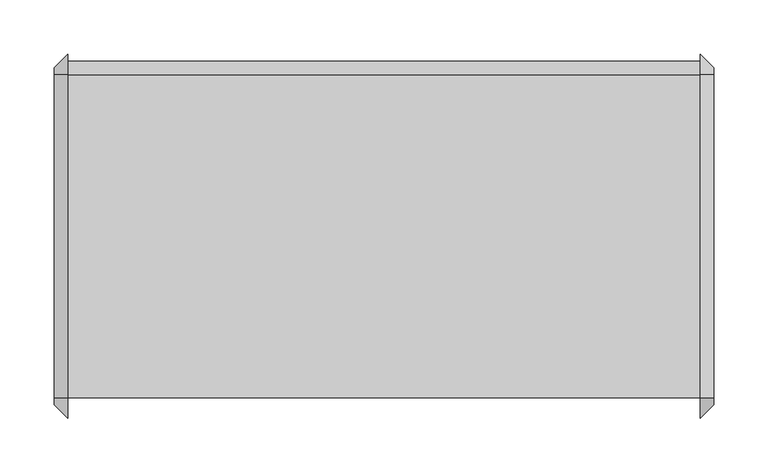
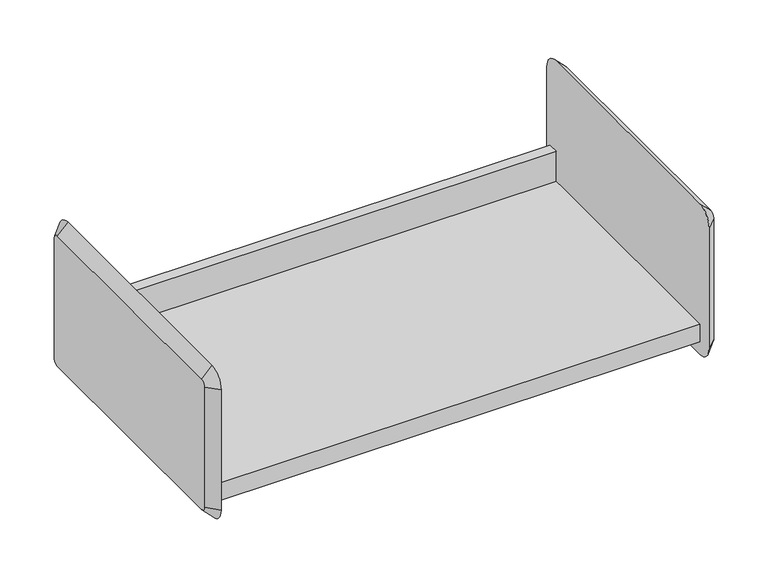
"""IFC4 building model written with IfcOpenShell, lengths in millimetres: furniture geometry."""

from ifc_helpers import new_model, si_unit, frame, origin, place, context, project, spatial, polyline, circle_curve, outline, extrude, source, transform, mapped, element, save
from ifc_brep_helpers import plane_surface, revolved_surface, advanced_brep


def furniture_ae017f2a(model_context):
    return source(origin(), model_context, "Body", "SolidModel", [
        extrude(outline(polyline([(-136.525, 1371.6), (161.925, 1371.6), (161.925, 1409.7), (174.625, 1409.7), (174.625, 1406.525), (165.1, 1406.525), (165.1, 1368.425), (-133.35, 1368.425), (-133.35, 1349.375), (-136.525, 1349.375), (-136.525, 1371.6)])), frame((-416.0420045, 0.0, 0.0), z_axis=(1.0, 0.0, 0.0), x_axis=(0.0, 1.0, 0.0)), (0.0, 0.0, 1.0), 584.2),
        advanced_brep(
        [(180.8579955, 161.925, 1511.3), (180.8579955, -136.525, 1511.3), (180.8579955, -142.875, 1504.95), (180.8579955, -142.875, 1352.55), (180.8579955, -136.525, 1346.2), (180.8579955, 161.925, 1346.2), (180.8579955, 168.275, 1352.55), (180.8579955, 168.275, 1504.95), (168.1579955, 161.925, 1524.0), (168.1579955, 180.975, 1504.95), (168.1579955, 180.975, 1352.55), (168.1579955, 161.925, 1333.5), (168.1579955, -136.525, 1333.5), (168.1579955, -155.575, 1352.55), (168.1579955, -155.575, 1504.95), (168.1579955, -136.525, 1524.0)],
        [
            (0, 1),
            (1, 2, circle_curve(frame((180.8579955, -136.525, 1504.95), z_axis=(1.0, 2.0730084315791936e-12, -2.1742607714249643e-12), x_axis=(2.1742640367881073e-12, 0.0, 1.0)), 6.35)),
            (2, 3),
            (3, 4, circle_curve(frame((180.8579955, -136.525, 1352.55), z_axis=(1.0, 2.059685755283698e-12, 2.0463630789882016e-12), x_axis=(2.059647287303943e-12, -1.0, 0.0)), 6.35)),
            (4, 5),
            (5, 6, circle_curve(frame((180.8579955, 161.925, 1352.55), z_axis=(1.0, 2.088995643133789e-12, -2.1103119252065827e-12), x_axis=(-2.1103612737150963e-12, 0.0, -1.0)), 6.35)),
            (6, 7),
            (7, 0, circle_curve(frame((180.8579955, 161.925, 1504.95), z_axis=(1.0, 2.0783375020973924e-12, 1.9824142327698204e-12), x_axis=(-2.0783313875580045e-12, 1.0, 0.0)), 6.35)),
            (8, 9, circle_curve(frame((168.1579955, 161.925, 1504.95), z_axis=(-1.0, -2.0783375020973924e-12, -1.9824142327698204e-12), x_axis=(-2.0783313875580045e-12, 1.0, 0.0)), 19.05)),
            (9, 10),
            (10, 11, circle_curve(frame((168.1579955, 161.925, 1352.55), z_axis=(-1.0, -2.088995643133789e-12, 2.1103119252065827e-12), x_axis=(-2.1103612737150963e-12, 0.0, -1.0)), 19.05)),
            (11, 12),
            (12, 13, circle_curve(frame((168.1579955, -136.525, 1352.55), z_axis=(-1.0, -2.059685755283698e-12, -2.0463630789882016e-12), x_axis=(2.059647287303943e-12, -1.0, 0.0)), 19.05)),
            (13, 14),
            (14, 15, circle_curve(frame((168.1579955, -136.525, 1504.95), z_axis=(-1.0, -2.0730084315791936e-12, 2.1742607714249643e-12), x_axis=(2.1742640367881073e-12, 0.0, 1.0)), 19.05)),
            (15, 8),
            (15, 1),
            (0, 8),
            (14, 2),
            (13, 3),
            (12, 4),
            (11, 5),
            (10, 6),
            (9, 7),
        ],
        [
            plane_surface(frame((180.8579955, 12.7, 1428.75), z_axis=(1.0, 0.0, 0.0), x_axis=(0.0, -1.0, 0.0))),
            plane_surface(frame((168.1579955, 12.7, 1428.75), z_axis=(-1.0, 0.0, 0.0), x_axis=(0.0, -1.0, 0.0))),
            plane_surface(frame((168.1579955, 12.7, 1524.0), z_axis=(0.7071067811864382, 0.0, 0.7071067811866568), x_axis=(0.0, -1.0, 0.0))),
            revolved_surface(polyline([(180.8579955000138, -136.525, 1511.2999999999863), (168.1579955, -136.525, 1524.0)]), (187.2079955, -136.525, 1504.95), (-1.0, -2.0730084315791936e-12, 2.1742607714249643e-12)),
            plane_surface(frame((168.1579955, -155.575, 1428.75), z_axis=(0.707106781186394, -0.7071067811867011, 0.0), x_axis=(0.0, 0.0, -1.0))),
            revolved_surface(polyline([(180.85799550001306, -142.87499999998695, 1352.55), (168.1579955, -155.575, 1352.55)]), (187.2079955, -136.525, 1352.55), (-1.0, -2.059685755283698e-12, -2.0463630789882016e-12)),
            plane_surface(frame((168.1579955, 12.7, 1333.5), z_axis=(0.7071067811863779, 0.0, -0.7071067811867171), x_axis=(0.0, 1.0, 0.0))),
            revolved_surface(polyline([(180.8579955, 161.925, 1346.2), (168.15799549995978, 161.925, 1333.4999999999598)]), (187.2079955, 161.925, 1352.55), (-1.0, -2.088995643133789e-12, 2.1103119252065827e-12)),
            plane_surface(frame((168.1579955, 180.975, 1428.75), z_axis=(0.707106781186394, 0.7071067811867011, 0.0), x_axis=(0.0, 0.0, 1.0))),
            revolved_surface(polyline([(180.8579955, 168.27500000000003, 1504.95), (168.1579954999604, 180.97500000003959, 1504.95)]), (187.2079955, 161.925, 1504.95), (-1.0, -2.0783375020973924e-12, -1.9824142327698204e-12)),
        ],
        [
            (0, [[1, 2, 3, 4, 5, 6, 7, 8]]),
            (1, [[9, 10, 11, 12, 13, 14, 15, 16]]),
            (2, [[-16, 17, -1, 18]]),
            (3, [[-15, 19, -2, -17]]),
            (4, [[-14, 20, -3, -19]]),
            (5, [[-13, 21, -4, -20]]),
            (6, [[-12, 22, -5, -21]]),
            (7, [[-11, 23, -6, -22]]),
            (8, [[-10, 24, -7, -23]]),
            (9, [[-9, -18, -8, -24]]),
        ],
    ),
        advanced_brep(
        [(-428.7420045, -136.525, 1511.3), (-428.7420045, 161.925, 1511.3), (-428.7420045, 168.275, 1504.95), (-428.7420045, 168.275, 1352.55), (-428.7420045, 161.925, 1346.2), (-428.7420045, -136.525, 1346.2), (-428.7420045, -142.875, 1352.55), (-428.7420045, -142.875, 1504.95), (-416.0420045, -136.525, 1524.0), (-416.0420045, -155.575, 1504.95), (-416.0420045, -155.575, 1352.55), (-416.0420045, -136.525, 1333.5), (-416.0420045, 161.925, 1333.5), (-416.0420045, 180.975, 1352.55), (-416.0420045, 180.975, 1504.95), (-416.0420045, 161.925, 1524.0)],
        [
            (0, 1),
            (1, 2, circle_curve(frame((-428.7420045, 161.925, 1504.95), z_axis=(-1.0, 0.0, 0.0), x_axis=(0.0, 0.0, 1.0)), 6.35)),
            (2, 3),
            (3, 4, circle_curve(frame((-428.7420045, 161.925, 1352.55), z_axis=(-1.0, 0.0, 0.0), x_axis=(0.0, 1.0, 0.0)), 6.35)),
            (4, 5),
            (5, 6, circle_curve(frame((-428.7420045, -136.525, 1352.55), z_axis=(-1.0, 0.0, 0.0), x_axis=(0.0, 0.0, -1.0)), 6.35)),
            (6, 7),
            (7, 0, circle_curve(frame((-428.7420045, -136.525, 1504.95), z_axis=(-1.0, 0.0, 0.0), x_axis=(0.0, -1.0, 0.0)), 6.35)),
            (8, 9, circle_curve(frame((-416.0420045, -136.525, 1504.95), z_axis=(1.0, 0.0, 0.0), x_axis=(0.0, -1.0, 0.0)), 19.05)),
            (9, 10),
            (10, 11, circle_curve(frame((-416.0420045, -136.525, 1352.55), z_axis=(1.0, 0.0, 0.0), x_axis=(0.0, 0.0, -1.0)), 19.05)),
            (11, 12),
            (12, 13, circle_curve(frame((-416.0420045, 161.925, 1352.55), z_axis=(1.0, 0.0, 0.0), x_axis=(0.0, 1.0, 0.0)), 19.05)),
            (13, 14),
            (14, 15, circle_curve(frame((-416.0420045, 161.925, 1504.95), z_axis=(1.0, 0.0, 0.0), x_axis=(0.0, 0.0, 1.0)), 19.05)),
            (15, 8),
            (15, 1),
            (0, 8),
            (14, 2),
            (13, 3),
            (12, 4),
            (11, 5),
            (10, 6),
            (9, 7),
        ],
        [
            plane_surface(frame((-428.7420045, 12.7, 1428.75), z_axis=(-1.0, 0.0, 0.0), x_axis=(0.0, -1.0, 0.0))),
            plane_surface(frame((-416.0420045, 12.7, 1428.75), z_axis=(1.0, 0.0, 0.0), x_axis=(0.0, -1.0, 0.0))),
            plane_surface(frame((-416.0420045, 12.7, 1524.0), z_axis=(-0.7071067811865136, 0.0, 0.7071067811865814), x_axis=(0.0, 1.0, 0.0))),
            revolved_surface(polyline([(-428.7420045, 161.925, 1511.3), (-416.0420045, 161.925, 1524.0)]), (-435.0920045, 161.925, 1504.95), (1.0, 0.0, 0.0)),
            plane_surface(frame((-416.0420045, 180.975, 1428.75), z_axis=(-0.7071067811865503, 0.7071067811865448, 0.0), x_axis=(0.0, 0.0, -1.0))),
            revolved_surface(polyline([(-428.7420045, 168.27499999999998, 1352.55), (-416.0420045, 180.975, 1352.55)]), (-435.0920045, 161.925, 1352.55), (1.0, 0.0, 0.0)),
            plane_surface(frame((-416.0420045, 12.7, 1333.5), z_axis=(-0.707106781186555, 0.0, -0.70710678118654), x_axis=(0.0, -1.0, 0.0))),
            revolved_surface(polyline([(-428.7420045, -136.525, 1346.2), (-416.0420045, -136.525, 1333.5)]), (-435.0920045, -136.525, 1352.55), (1.0, 0.0, 0.0)),
            plane_surface(frame((-416.0420045, -155.575, 1428.75), z_axis=(-0.7071067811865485, -0.7071067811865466, 0.0), x_axis=(0.0, 0.0, 1.0))),
            revolved_surface(polyline([(-428.7420045, -142.87499999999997, 1504.95), (-416.0420045, -155.575, 1504.95)]), (-435.0920045, -136.525, 1504.95), (1.0, 0.0, 0.0)),
        ],
        [
            (0, [[1, 2, 3, 4, 5, 6, 7, 8]]),
            (1, [[9, 10, 11, 12, 13, 14, 15, 16]]),
            (2, [[-16, 17, -1, 18]]),
            (3, [[-15, 19, -2, -17]]),
            (4, [[-14, 20, -3, -19]]),
            (5, [[-13, 21, -4, -20]]),
            (6, [[-12, 22, -5, -21]]),
            (7, [[-11, 23, -6, -22]]),
            (8, [[-10, 24, -7, -23]]),
            (9, [[-9, -18, -8, -24]]),
        ],
    ),
    ])


if __name__ == "__main__":
    model = new_model("IFC4")
    model_context = context("Model", 3, world=origin())
    ifc_project = project(units=[si_unit("LENGTHUNIT", "METRE", prefix="MILLI")], contexts=[model_context])
    site = spatial("IfcSite", under=ifc_project)
    building = spatial("IfcBuilding", under=site)
    placement = place(None, origin())
    furniture_shape = furniture_ae017f2a(model_context)
    element("IfcFurniture", 1, ObjectType="HermanMiller_ActionOffice_A3220_B-StyleStorageDisplay : Shelf 13\"D x 24\"W", at=placement, inside=building, context=model_context, shape_type="MappedRepresentation", body=[
        mapped(furniture_shape, transform((0.0, 0.0, 0.0), x_axis=(1.0, 0.0, 0.0), y_axis=(0.0, 1.0, 0.0), z_axis=(0.0, 0.0, 1.0))),
    ])
    save(model, "model.ifc")
